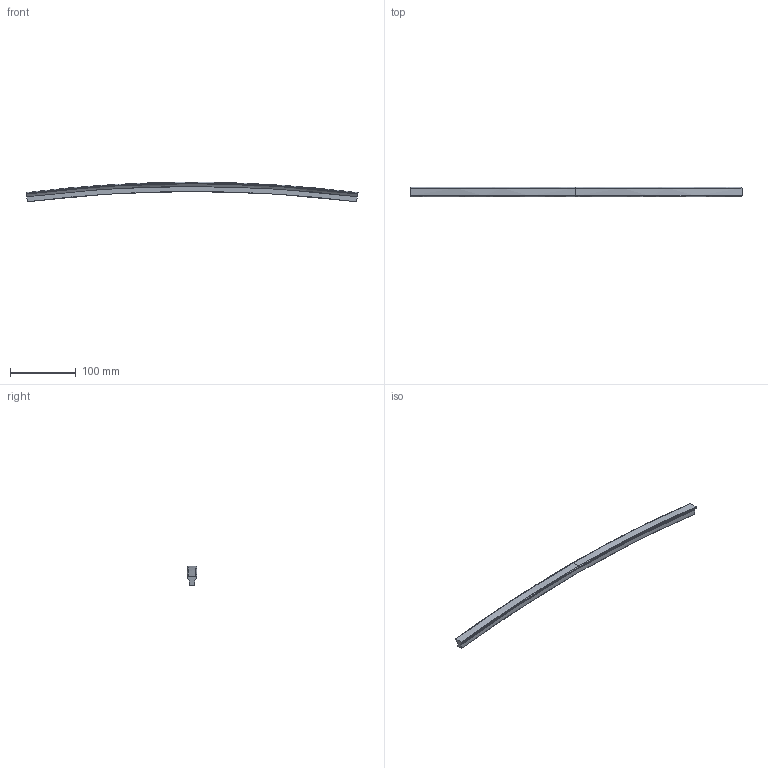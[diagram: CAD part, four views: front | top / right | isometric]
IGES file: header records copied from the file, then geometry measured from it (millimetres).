
Start section: C
Global section: file name: 8193-500R2000.par.igs; native system: By Siemens PLM Incorporated; preprocessor: XPlus GENERIC/IGES 16.0.42; author: Author; organization: Title; date: 20231116.150319; units: millimetre
Bounding box: 504.48 x 14 x 29.69 mm (x, y, z)
Surface area: 26342.6 mm2 (no closed solid volume)
Topology: 0 solids, 0 shells, 33 faces, 162 edges, 162 vertices
Faces by surface type: bspline 33
